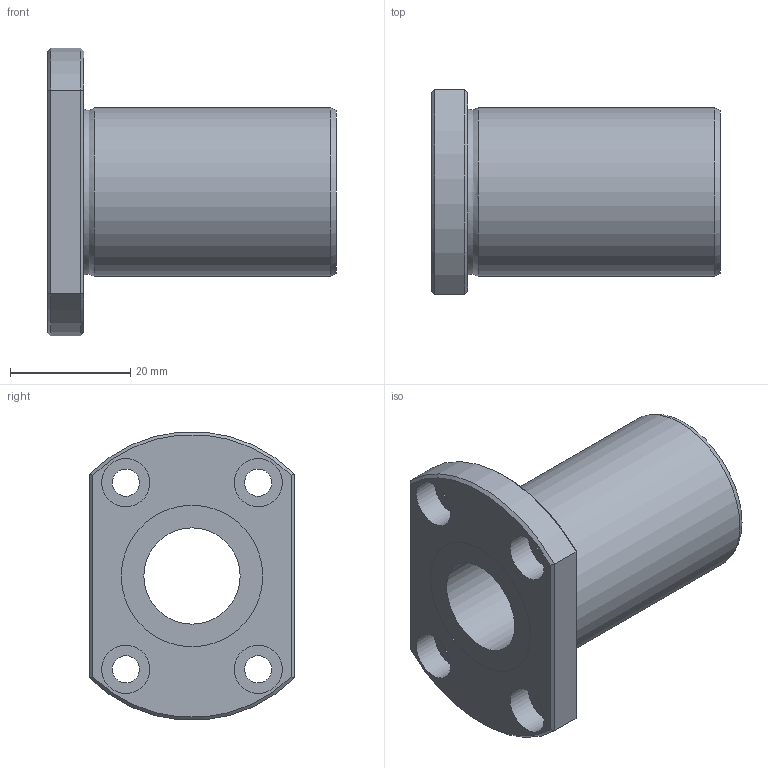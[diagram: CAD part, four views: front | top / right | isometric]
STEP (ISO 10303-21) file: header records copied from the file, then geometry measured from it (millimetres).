
FILE_DESCRIPTION((''),'2;1');
FILE_NAME('D:\製品 (図面)\カタログ用3D\メンテナンスフリー関連\STEP形式\LFT-MF\LFT16MF.stp','2010-06-01T16:07:44',('Tsuchiya'),(''),'Autodesk Inventor 10','Autodesk Inventor 10','');
FILE_SCHEMA(('AUTOMOTIVE_DESIGN { 1 0 10303 214 1 1 1 1 }'));
Length unit declared in the file: millimetre
Products named in the file (1): LFT16MF
Bounding box: 48 x 34 x 47.82 mm (x, y, z)
Volume: 23988.2 mm3; surface area: 9845.7 mm2
Topology: 1 solids, 1 shells, 35 faces, 68 edges, 42 vertices
Faces by surface type: plane 15, cylinder 14, cone 4, torus 1, bspline 1
Full cylindrical faces by diameter (mm): 4.5 x4, 8 x4, 16 x1, 23.5 x2, 28 x1
Entity records: 935 total; most frequent: CARTESIAN_POINT 218, DIRECTION 150, ORIENTED_EDGE 108, AXIS2_PLACEMENT_3D 69, EDGE_LOOP 66, EDGE_CURVE 54, VERTEX_POINT 42, FACE_OUTER_BOUND 35
